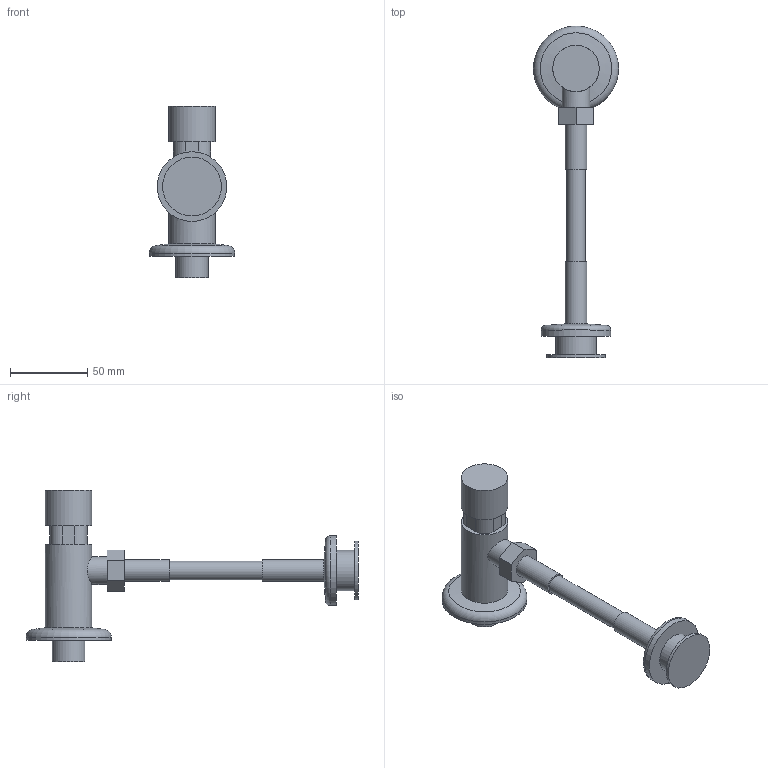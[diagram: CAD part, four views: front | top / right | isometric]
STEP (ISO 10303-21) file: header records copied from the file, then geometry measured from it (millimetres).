
FILE_DESCRIPTION(/* description */ ('URIVEX - zawór spłukujący pisuarowy'),/* implementation_level */ '2;1');
FILE_NAME(/* name */ 'C:\Nextcloud\02_biblioteki_cad\Valvex\Projekt\PROJECTS\Eksport\ETAP 4\2452950\2452950.stp',/* time_stamp */ '2021-08-09T10:49:30+02:00',/* author */ ('Cadventure'),/* organization */ (''),/* preprocessor_version */ 'ST-DEVELOPER v18.1',/* originating_system */ 'Autodesk Inventor 2020',/* authorisation */ '');
FILE_SCHEMA (('AUTOMOTIVE_DESIGN { 1 0 10303 214 3 1 1 }'));
Length unit declared in the file: millimetre
Products named in the file (1): 2452950
Bounding box: 55 x 214.5 x 111 mm (x, y, z)
Volume: 127741 mm3; surface area: 28535 mm2
Topology: 1 solids, 1 shells, 41 faces, 108 edges, 78 vertices
Faces by surface type: plane 22, cylinder 15, cone 2, torus 2
Full cylindrical faces by diameter (mm): 12 x1, 14 x2, 18 x1, 21 x1, 26 x1, 30 x2, 38 x1, 45 x1, 55 x1
Entity records: 1452 total; most frequent: CARTESIAN_POINT 263, DIRECTION 246, ORIENTED_EDGE 216, EDGE_CURVE 108, AXIS2_PLACEMENT_3D 99, VERTEX_POINT 78, CIRCLE 57, EDGE_LOOP 50
